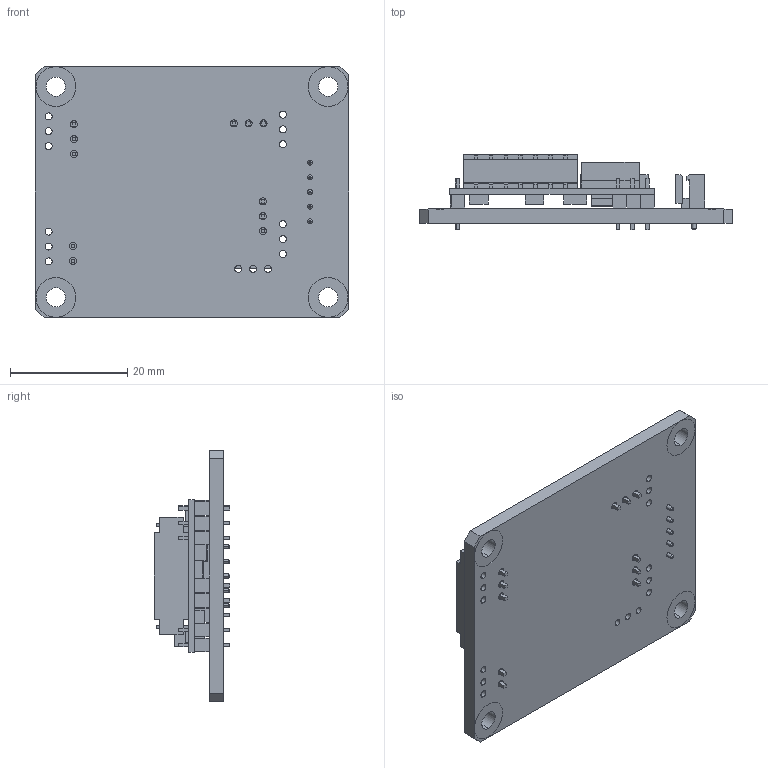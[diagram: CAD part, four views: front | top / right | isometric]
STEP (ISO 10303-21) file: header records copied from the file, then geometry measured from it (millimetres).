
FILE_DESCRIPTION (( 'STEP AP203' ), '1' );
FILE_NAME ('BSSP-F060W-V.STEP', '2016-07-23T17:09:33', ( 'gregory' ), ( '' ), 'SwSTEP 2.0', 'SolidWorks 2011', '' );
FILE_SCHEMA (( 'CONFIG_CONTROL_DESIGN' ));
Length unit declared in the file: millimetre
Products named in the file (1): BSSP-F060W-V
Bounding box: 53.5 x 12.89 x 43 mm (x, y, z)
Volume: 9466.8 mm3; surface area: 9264.9 mm2
Topology: 1 solids, 1 shells, 649 faces, 1667 edges, 1100 vertices
Faces by surface type: plane 521, cylinder 108, torus 20
Entity records: 20706 total; most frequent: CARTESIAN_POINT 4417, ORIENTED_EDGE 3334, DIRECTION 3183, EDGE_CURVE 1667, LINE 1411, VECTOR 1411, VERTEX_POINT 1100, AXIS2_PLACEMENT_3D 886
